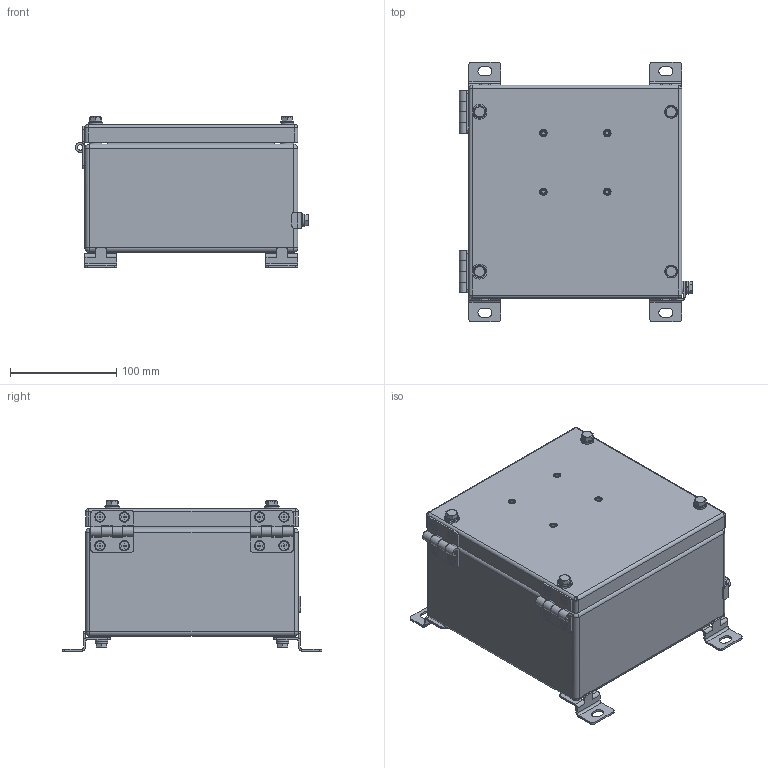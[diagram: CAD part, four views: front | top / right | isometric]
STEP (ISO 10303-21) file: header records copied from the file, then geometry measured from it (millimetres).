
FILE_DESCRIPTION((''),'2;1');
FILE_NAME('\\192.168.5.25\cortem_klient\INVENTOR БАЗА МОДЕЛЕЙ\Актуальная база моделей для отдела продаж\КСРВ-Н\КСРВ-Н202012_М5.stp','2019-04-09T14:07:36',('A.S.Kozlov'),(''),'Autodesk Inventor 2012','Autodesk Inventor 2012','');
FILE_SCHEMA(('CONFIG_CONTROL_DESIGN'));
Length unit declared in the file: millimetre
Products named in the file (1): КСРВ-(параметрическая модель)_Внешний контур_1
Bounding box: 219.19 x 244 x 141.2 mm (x, y, z)
Surface area: 272649.5 mm2 (no closed solid volume)
Topology: 0 solids, 85 shells, 415 faces, 1441 edges, 1037 vertices
Faces by surface type: plane 242, cylinder 149, sphere 12, cone 12
Full cylindrical faces by diameter (mm): 4.917 x1, 5 x4, 5.9 x5, 10 x2, 12 x12, 12.7 x4, 14 x2
Entity records: 16060 total; most frequent: CARTESIAN_POINT 2993, DIRECTION 2683, ORIENTED_EDGE 2114, EDGE_CURVE 1384, VERTEX_POINT 1025, AXIS2_PLACEMENT_3D 967, VECTOR 749, LINE 749
